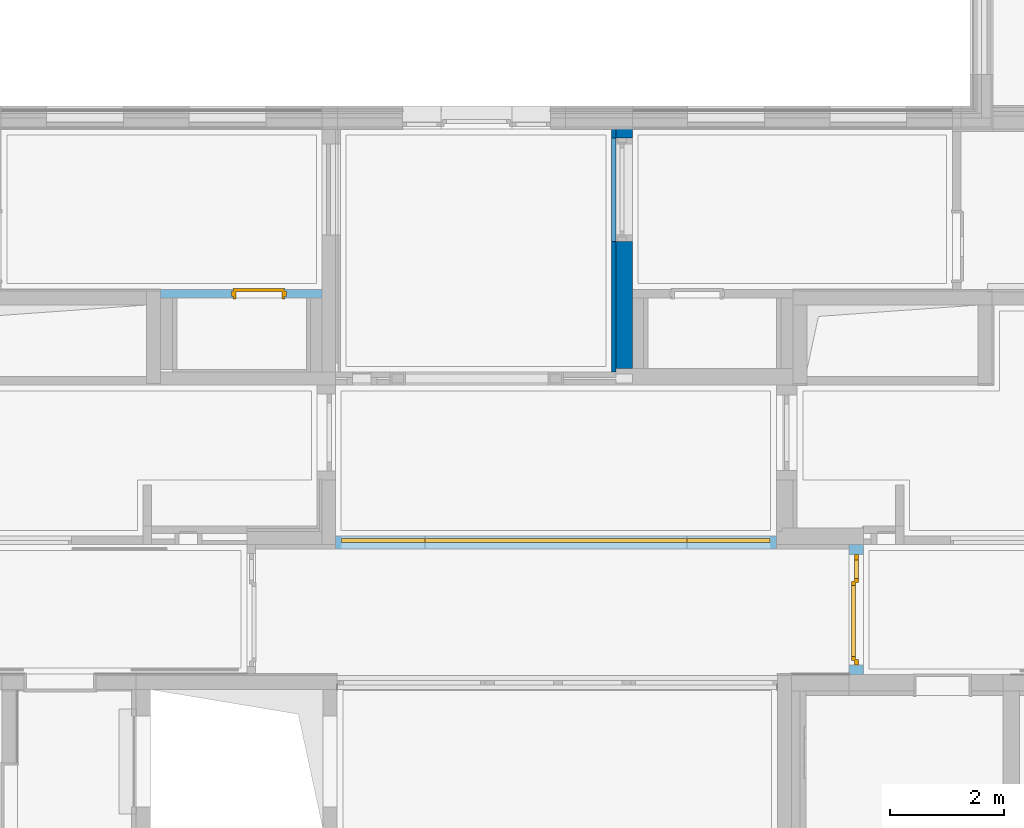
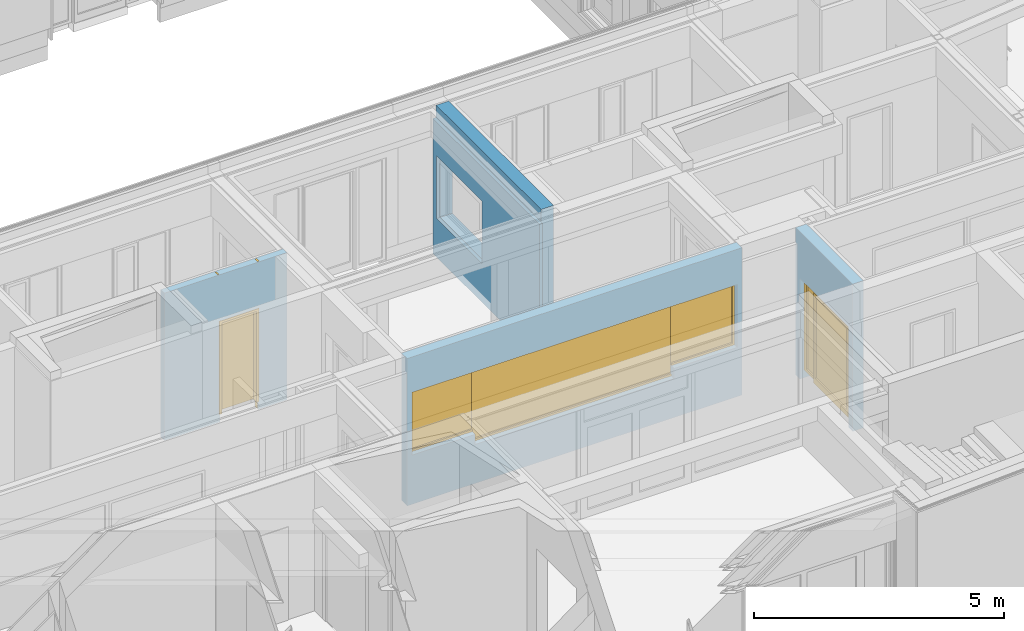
# One storey, part 96 of 207: 3 windows, 2 doors, 2 walls, 5 openings, plus 3 elements that do not belong to this part.
"""IFC4 building model written with IfcOpenShell, lengths in metres."""

from ifc_helpers import new_model, entity, si_unit, converted_unit, derived_unit, frame, frame_2d, origin, origin_with_axes, place, context, subcontext, project, spatial, polyline, rectangle, outline, extrude, closed_shell, open_shell, faceted_brep, surface_model, source, transform, mapped, material, type_object, element, fill, save


model = new_model("IFC4")

# Units and contexts
model_context = context("Model", 3, precision=1e-05, world=origin())
body_context = subcontext(model_context, "Body", "Model", "MODEL_VIEW")
ifc_project = project(units=[si_unit("LENGTHUNIT", "METRE"), si_unit("AREAUNIT", "SQUARE_METRE"), si_unit("VOLUMEUNIT", "CUBIC_METRE"), si_unit("MASSUNIT", "GRAM", prefix="KILO"), converted_unit("PLANEANGLEUNIT", "DEGREE", entity("IfcPlaneAngleMeasure", 0.0174532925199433), si_unit("PLANEANGLEUNIT", "RADIAN"), dimensions=[0, 0, 0, 0, 0, 0, 0]), derived_unit("THERMALTRANSMITTANCEUNIT", [(si_unit("POWERUNIT", "WATT"), 1), (si_unit("THERMODYNAMICTEMPERATUREUNIT", "KELVIN"), -1), (si_unit("LENGTHUNIT", "METRE"), -2)]), derived_unit("VOLUMETRICFLOWRATEUNIT", [(si_unit("LENGTHUNIT", "METRE"), 3), (converted_unit("TIMEUNIT", "hour", entity("IfcTimeMeasure", 3600.0), si_unit("TIMEUNIT", "SECOND"), dimensions=[0, 0, 1, 0, 0, 0, 0]), -1), (si_unit("LENGTHUNIT", "METRE"), -1)])], contexts=[model_context])

# Site, building, storey
site_placement = place(None, origin())
site = spatial("IfcSite", under=ifc_project, at=site_placement, Name="Psychiatrie Neubau Wunstorf", CompositionType="ELEMENT")
building_placement = place(site_placement, origin())
building = spatial("IfcBuilding", under=site, at=building_placement, Name="Neubau H2 Stationsgebäude", CompositionType="ELEMENT")
storey_placement = place(building_placement, frame((0.0, 0.0, -0.2)))
storey = spatial("IfcBuildingStorey", under=building, at=storey_placement, Name="H2 Ebene 0", CompositionType="ELEMENT", Elevation=-0.2)

# Wall, opening, door
ifc_material_1 = material(Name="WI-LB")
wall_1_placement = place(storey_placement, frame((50.2860000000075, 7.29999969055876, 0.0), z_axis=(0.0, 0.0, 1.0), x_axis=(-1.0, 0.0, 0.0)))
wall_1 = element("IfcWall", 1, at=wall_1_placement, inside=storey, material=ifc_material_1, context=body_context, shape_type="SweptSolid", body=[
    extrude(rectangle(XDim=2.836, YDim=0.15, at=frame_2d((1.418, 0.075), x_axis=(1.0, 0.0))), origin_with_axes(), (0.0, 0.0, 1.0), 3.6),
])
opening_1_placement = place(wall_1_placement, frame((1.5535, 0.15, 0.0), z_axis=(0.0, -1.0, 0.0), x_axis=(0.0, 0.0, 1.0)))
opening_1 = element("IfcOpeningElement", 2, at=opening_1_placement, cuts=wall_1, Name="Türöffnung", ObjectType="Opening", context=body_context, shape_type="SweptSolid", body=[
    extrude(outline(polyline([(2.46, 0.885), (2.46, 0.0), (0.0, 0.0), (0.0, 0.885), (2.46, 0.885)])), origin_with_axes(), (0.0, 0.0, 1.0), 0.15),
])
ifc_material_2 = material(Name="TI-1F-UZ-D-N")
door_type = type_object("IfcDoorType", Name="SMT", OperationType="SINGLE_SWING_RIGHT", ParameterTakesPrecedence=False, PredefinedType="DOOR")
shared_shape_1 = source(origin_with_axes(), body_context, "Body", "Brep", [
    faceted_brep([(0.925, 0.025, 0.0), (0.925, 0.125, 0.0), (0.885, 0.125, 0.0), (0.885, 0.025, 0.0), (0.925, 0.125, 3.6), (0.925, 0.025, 3.6), (0.885, 0.025, 3.6), (0.885, 0.125, 3.6)], [[[0, 1, 2, 3]], [[4, 5, 6, 7]], [[1, 0, 5, 4]], [[2, 1, 4, 7]], [[3, 2, 7, 6]], [[0, 3, 6, 5]]], orient=[[False], [False], [False], [False], [False], [False]]),
    faceted_brep([(0.0, 0.025, 0.0), (0.0, 0.125, 0.0), (-0.04, 0.125, 0.0), (-0.04, 0.025, 0.0), (0.0, 0.125, 3.6), (0.0, 0.025, 3.6), (-0.04, 0.025, 3.6), (-0.04, 0.125, 3.6)], [[[0, 1, 2, 3]], [[4, 5, 6, 7]], [[1, 0, 5, 4]], [[2, 1, 4, 7]], [[3, 2, 7, 6]], [[0, 3, 6, 5]]], orient=[[False], [False], [False], [False], [False], [False]]),
    faceted_brep([(0.885, 0.025, 2.46), (0.885, 0.125, 2.46), (0.0, 0.125, 2.46), (0.0, 0.025, 2.46), (0.885, 0.125, 2.5), (0.885, 0.025, 2.5), (0.0, 0.025, 2.5), (0.0, 0.125, 2.5)], [[[0, 1, 2, 3]], [[4, 5, 6, 7]], [[1, 0, 5, 4]], [[2, 1, 4, 7]], [[3, 2, 7, 6]], [[0, 3, 6, 5]]], orient=[[False], [False], [False], [False], [False], [False]]),
])
shared_shape_2 = source(origin_with_axes(), body_context, "Body", "Brep", [
    faceted_brep([(0.885, -0.015, 2.46), (0.885, -0.015, 0.2), (0.845, -0.015, 0.2), (0.845, -0.015, 2.46), (0.885, 0.165, 0.2), (0.885, 0.165, 2.46), (0.845, 0.165, 2.46), (0.845, 0.165, 0.2)], [[[0, 1, 2, 3]], [[4, 5, 6, 7]], [[1, 0, 5, 4]], [[2, 1, 4, 7]], [[3, 2, 7, 6]], [[0, 3, 6, 5]]], orient=[[False], [False], [False], [False], [False], [False]]),
    faceted_brep([(0.885, -0.015, 2.475), (0.9, -0.015, 2.475), (0.9, -0.015, 0.2), (0.885, -0.015, 0.2), (0.885, 0.0, 0.2), (0.9, 0.0, 0.2), (0.9, 0.0, 2.475), (0.885, 0.0, 2.475)], [[[0, 1, 2, 3]], [[4, 5, 6, 7]], [[3, 4, 7, 0]], [[2, 5, 4, 3]], [[1, 6, 5, 2]], [[0, 7, 6, 1]]], orient=[[False], [False], [False], [False], [False], [False]]),
    faceted_brep([(0.885, 0.15, 2.475), (0.9, 0.15, 2.475), (0.9, 0.15, 0.2), (0.885, 0.15, 0.2), (0.885, 0.165, 0.2), (0.9, 0.165, 0.2), (0.9, 0.165, 2.475), (0.885, 0.165, 2.475)], [[[0, 1, 2, 3]], [[4, 5, 6, 7]], [[3, 4, 7, 0]], [[2, 5, 4, 3]], [[1, 6, 5, 2]], [[0, 7, 6, 1]]], orient=[[False], [False], [False], [False], [False], [False]]),
    faceted_brep([(0.04, -0.015, 2.46), (0.04, -0.015, 0.2), (0.0, -0.015, 0.2), (0.0, -0.015, 2.46), (0.04, 0.165, 0.2), (0.04, 0.165, 2.46), (0.0, 0.165, 2.46), (0.0, 0.165, 0.2)], [[[0, 1, 2, 3]], [[4, 5, 6, 7]], [[1, 0, 5, 4]], [[2, 1, 4, 7]], [[3, 2, 7, 6]], [[0, 3, 6, 5]]], orient=[[False], [False], [False], [False], [False], [False]]),
    faceted_brep([(0.0, -0.015, 2.475), (0.0, -0.015, 0.2), (-0.015, -0.015, 0.2), (-0.015, -0.015, 2.475), (0.0, 0.0, 0.2), (0.0, 0.0, 2.475), (-0.015, 0.0, 2.475), (-0.015, 0.0, 0.2)], [[[0, 1, 2, 3]], [[4, 5, 6, 7]], [[1, 0, 5, 4]], [[2, 1, 4, 7]], [[3, 2, 7, 6]], [[0, 3, 6, 5]]], orient=[[False], [False], [False], [False], [False], [False]]),
    faceted_brep([(0.0, 0.15, 2.475), (0.0, 0.15, 0.2), (-0.015, 0.15, 0.2), (-0.015, 0.15, 2.475), (0.0, 0.165, 0.2), (0.0, 0.165, 2.475), (-0.015, 0.165, 2.475), (-0.015, 0.165, 0.2)], [[[0, 1, 2, 3]], [[4, 5, 6, 7]], [[1, 0, 5, 4]], [[2, 1, 4, 7]], [[3, 2, 7, 6]], [[0, 3, 6, 5]]], orient=[[False], [False], [False], [False], [False], [False]]),
    faceted_brep([(0.845, -0.015, 2.46), (0.845, -0.015, 2.42), (0.04, -0.015, 2.42), (0.04, -0.015, 2.46), (0.845, 0.165, 2.42), (0.845, 0.165, 2.46), (0.04, 0.165, 2.46), (0.04, 0.165, 2.42)], [[[0, 1, 2, 3]], [[4, 5, 6, 7]], [[1, 0, 5, 4]], [[2, 1, 4, 7]], [[3, 2, 7, 6]], [[0, 3, 6, 5]]], orient=[[False], [False], [False], [False], [False], [False]]),
    faceted_brep([(0.885, -0.015, 2.475), (0.885, -0.015, 2.46), (0.0, -0.015, 2.46), (0.0, -0.015, 2.475), (0.885, 0.0, 2.46), (0.885, 0.0, 2.475), (0.0, 0.0, 2.475), (0.0, 0.0, 2.46)], [[[0, 1, 2, 3]], [[4, 5, 6, 7]], [[1, 0, 5, 4]], [[2, 1, 4, 7]], [[3, 2, 7, 6]], [[0, 3, 6, 5]]], orient=[[False], [False], [False], [False], [False], [False]]),
    faceted_brep([(0.885, 0.15, 2.475), (0.885, 0.15, 2.46), (0.0, 0.15, 2.46), (0.0, 0.15, 2.475), (0.885, 0.165, 2.46), (0.885, 0.165, 2.475), (0.0, 0.165, 2.475), (0.0, 0.165, 2.46)], [[[0, 1, 2, 3]], [[4, 5, 6, 7]], [[1, 0, 5, 4]], [[2, 1, 4, 7]], [[3, 2, 7, 6]], [[0, 3, 6, 5]]], orient=[[False], [False], [False], [False], [False], [False]]),
    faceted_brep([(0.86, 0.116, 2.435), (0.86, 0.116, 0.2), (0.025, 0.116, 0.2), (0.025, 0.116, 2.435), (0.86, 0.166, 0.2), (0.86, 0.166, 2.435), (0.025, 0.166, 2.435), (0.025, 0.166, 0.2)], [[[0, 1, 2, 3]], [[4, 5, 6, 7]], [[1, 0, 5, 4]], [[2, 1, 4, 7]], [[3, 2, 7, 6]], [[0, 3, 6, 5]]], orient=[[False], [False], [False], [False], [False], [False]]),
])
door_1_placement = place(opening_1_placement, frame((0.0, 0.0, 0.0), z_axis=(1.0, 0.0, 0.0), x_axis=(0.0, 1.0, 0.0)))
door_1 = element("IfcDoor", 3, at=door_1_placement, inside=storey, type_object=door_type, material=ifc_material_2, Name="SMT", OverallHeight=2.46, OverallWidth=0.885, context=body_context, shape_type="MappedRepresentation", body=[
    mapped(shared_shape_1, transform((0.0, 0.0, 0.0), x_axis=(1.0, 0.0, 0.0), y_axis=(0.0, 1.0, 0.0), z_axis=(0.0, 0.0, 1.0), scale=1.0)),
    mapped(shared_shape_2, transform((0.0, 0.0, 0.0), x_axis=(1.0, 0.0, 0.0), y_axis=(0.0, 1.0, 0.0), z_axis=(0.0, 0.0, 1.0), scale=1.0)),
])
fill(opening_1, door_1)

ifc_material_3 = material(Name="WI-LW 60")
wall_2_placement = place(storey_placement, frame((59.5393138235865, 2.81760836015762, 0.0), z_axis=(0.0, 0.0, 1.0), x_axis=(0.0, -1.0, 0.0)))
wall_2 = element("IfcWall", 4, at=wall_2_placement, inside=storey, material=ifc_material_3, context=body_context, shape_type="SweptSolid", body=[
    extrude(outline(polyline([(-2.28160591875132, 0.0), (0.0, 0.0), (0.0, 0.25), (-2.28162844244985, 0.25), (-2.28160591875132, 0.0)])), frame((2.28160591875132, 0.0, 0.0), z_axis=(0.0, 0.0, 1.0), x_axis=(1.0, 0.0, 0.0)), (0.0, 0.0, 1.0), 3.6),
])
opening_2_placement = place(wall_2_placement, frame((2.11161344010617, 0.25, 0.0), z_axis=(0.0, -1.0, 0.0), x_axis=(0.0, 0.0, 1.0)))
opening_2 = element("IfcOpeningElement", 5, at=opening_2_placement, cuts=wall_2, Name="Türöffnung", ObjectType="Opening", context=body_context, shape_type="SweptSolid", body=[
    extrude(outline(polyline([(2.46, 1.9416311), (2.46, 0.0), (0.0, 0.0), (0.0, 1.9416311), (2.46, 1.9416311)])), origin_with_axes(), (0.0, 0.0, 1.0), 0.25),
])
ifc_material_4 = material(Name="TI-1F-SG-D-M")
shared_shape_3 = source(origin_with_axes(), body_context, "Body", "Brep", [
    faceted_brep([(2.04913110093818, -0.0449999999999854, 0.0), (2.04913110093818, 0.115000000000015, 0.0), (1.96913110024, 0.115000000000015, 0.0), (1.96913110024, -0.0449999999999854, 0.0), (2.04913110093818, 0.115000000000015, 3.6), (2.04913110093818, -0.0449999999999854, 3.6), (1.96913110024, -0.0449999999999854, 3.6), (1.96913110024, 0.115000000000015, 3.6)], [[[0, 1, 2, 3]], [[4, 5, 6, 7]], [[1, 0, 5, 4]], [[2, 1, 4, 7]], [[3, 2, 7, 6]], [[0, 3, 6, 5]]], orient=[[False], [False], [False], [False], [False], [False]]),
    faceted_brep([(-0.0275000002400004, -0.0449999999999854, 0.0), (-0.0275000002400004, 0.115000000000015, 0.0), (-0.107500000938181, 0.115000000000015, 0.0), (-0.107500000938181, -0.0449999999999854, 0.0), (-0.0275000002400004, 0.115000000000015, 3.6), (-0.0275000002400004, -0.0449999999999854, 3.6), (-0.107500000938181, -0.0449999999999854, 3.6), (-0.107500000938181, 0.115000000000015, 3.6)], [[[0, 1, 2, 3]], [[4, 5, 6, 7]], [[1, 0, 5, 4]], [[2, 1, 4, 7]], [[3, 2, 7, 6]], [[0, 3, 6, 5]]], orient=[[False], [False], [False], [False], [False], [False]]),
    faceted_brep([(1.96913110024, -0.0449999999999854, 2.4875), (1.96913110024, 0.115000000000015, 2.4875), (-0.0275000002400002, 0.115000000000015, 2.4875), (-0.0275000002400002, -0.0449999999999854, 2.4875), (1.96913110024, 0.115000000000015, 2.5675), (1.96913110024, -0.0449999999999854, 2.5675), (-0.0275000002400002, -0.0449999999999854, 2.5675), (-0.0275000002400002, 0.115000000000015, 2.5675)], [[[0, 1, 2, 3]], [[4, 5, 6, 7]], [[1, 0, 5, 4]], [[2, 1, 4, 7]], [[3, 2, 7, 6]], [[0, 3, 6, 5]]], orient=[[False], [False], [False], [False], [False], [False]]),
])
shared_shape_4 = source(origin_with_axes(), body_context, "Body", "SurfaceModel", [
    surface_model("IfcShellBasedSurfaceModel", [(0.0, 0.0, 2.46), (0.100000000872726, 0.0, 2.46), (0.100000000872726, 0.0, 0.2), (0.0, 0.0, 0.2), (0.0, 0.0700000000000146, 0.2), (0.100000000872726, 0.0700000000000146, 0.2), (0.100000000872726, 0.0700000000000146, 2.46), (0.0, 0.0700000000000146, 2.46)], [closed_shell([[[0, 1, 2, 3]], [[4, 5, 6, 7]], [[3, 4, 7, 0]], [[2, 5, 4, 3]], [[1, 6, 5, 2]], [[0, 7, 6, 1]]], orient=[[False], [False], [False], [False], [False], [False]])]),
    surface_model("IfcShellBasedSurfaceModel", [(1.84163109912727, 0.0, 2.46), (1.9416311, 0.0, 2.46), (1.9416311, 0.0, 0.2), (1.84163109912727, 0.0, 0.2), (1.84163109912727, 0.0700000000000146, 0.2), (1.9416311, 0.0700000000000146, 0.2), (1.9416311, 0.0700000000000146, 2.46), (1.84163109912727, 0.0700000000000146, 2.46)], [closed_shell([[[0, 1, 2, 3]], [[4, 5, 6, 7]], [[3, 4, 7, 0]], [[2, 5, 4, 3]], [[1, 6, 5, 2]], [[0, 7, 6, 1]]], orient=[[False], [False], [False], [False], [False], [False]])]),
    surface_model("IfcShellBasedSurfaceModel", [(0.100000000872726, 0.0, 2.46), (1.84163109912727, 0.0, 2.46), (1.84163109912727, 0.0, 2.36), (0.100000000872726, 0.0, 2.36), (0.100000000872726, 0.0700000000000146, 2.36), (1.84163109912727, 0.0700000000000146, 2.36), (1.84163109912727, 0.0700000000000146, 2.46), (0.100000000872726, 0.0700000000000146, 2.46)], [closed_shell([[[0, 1, 2, 3]], [[4, 5, 6, 7]], [[3, 4, 7, 0]], [[2, 5, 4, 3]], [[1, 6, 5, 2]], [[0, 7, 6, 1]]], orient=[[False], [False], [False], [False], [False], [False]])]),
    surface_model("IfcShellBasedSurfaceModel", [(1.45000001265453, 0.0, 2.36), (1.52000001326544, 0.0, 2.36), (1.52000001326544, 0.0, 0.2), (1.45000001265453, 0.0, 0.2), (1.45000001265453, 0.0700000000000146, 0.2), (1.52000001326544, 0.0700000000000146, 0.2), (1.52000001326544, 0.0700000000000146, 2.36), (1.45000001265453, 0.0700000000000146, 2.36)], [closed_shell([[[0, 1, 2, 3]], [[4, 5, 6, 7]], [[3, 4, 7, 0]], [[2, 5, 4, 3]], [[1, 6, 5, 2]], [[0, 7, 6, 1]]], orient=[[False], [False], [False], [False], [False], [False]])]),
    surface_model("IfcShellBasedSurfaceModel", [(0.0800000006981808, 0.0500000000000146, 2.38), (0.150000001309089, 0.0500000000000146, 2.38), (0.150000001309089, 0.0500000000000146, 0.18), (0.0800000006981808, 0.0500000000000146, 0.18), (0.0800000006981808, 0.120000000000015, 0.18), (0.150000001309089, 0.120000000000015, 0.18), (0.150000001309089, 0.120000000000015, 2.38), (0.0800000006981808, 0.120000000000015, 2.38)], [closed_shell([[[0, 1, 2, 3]], [[4, 5, 6, 7]], [[3, 4, 7, 0]], [[2, 5, 4, 3]], [[1, 6, 5, 2]], [[0, 7, 6, 1]]], orient=[[False], [False], [False], [False], [False], [False]])]),
    surface_model("IfcShellBasedSurfaceModel", [(1.40000001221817, 0.0500000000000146, 2.38), (1.47000001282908, 0.0500000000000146, 2.38), (1.47000001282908, 0.0500000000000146, 0.18), (1.40000001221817, 0.0500000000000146, 0.18), (1.40000001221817, 0.120000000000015, 0.18), (1.47000001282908, 0.120000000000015, 0.18), (1.47000001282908, 0.120000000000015, 2.38), (1.40000001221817, 0.120000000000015, 2.38)], [closed_shell([[[0, 1, 2, 3]], [[4, 5, 6, 7]], [[3, 4, 7, 0]], [[2, 5, 4, 3]], [[1, 6, 5, 2]], [[0, 7, 6, 1]]], orient=[[False], [False], [False], [False], [False], [False]])]),
    surface_model("IfcShellBasedSurfaceModel", [(0.150000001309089, 0.0500000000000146, 0.33), (1.40000001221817, 0.0500000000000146, 0.33), (1.40000001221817, 0.0500000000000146, 0.18), (0.150000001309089, 0.0500000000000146, 0.18), (0.150000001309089, 0.120000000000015, 0.18), (1.40000001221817, 0.120000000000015, 0.18), (1.40000001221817, 0.120000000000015, 0.33), (0.150000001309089, 0.120000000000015, 0.33)], [closed_shell([[[0, 1, 2, 3]], [[4, 5, 6, 7]], [[3, 4, 7, 0]], [[2, 5, 4, 3]], [[1, 6, 5, 2]], [[0, 7, 6, 1]]], orient=[[False], [False], [False], [False], [False], [False]])]),
    surface_model("IfcShellBasedSurfaceModel", [(0.150000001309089, 0.0500000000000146, 2.38), (1.40000001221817, 0.0500000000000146, 2.38), (1.40000001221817, 0.0500000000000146, 2.31), (0.150000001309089, 0.0500000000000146, 2.31), (0.150000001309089, 0.120000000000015, 2.31), (1.40000001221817, 0.120000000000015, 2.31), (1.40000001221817, 0.120000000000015, 2.38), (0.150000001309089, 0.120000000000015, 2.38)], [closed_shell([[[0, 1, 2, 3]], [[4, 5, 6, 7]], [[3, 4, 7, 0]], [[2, 5, 4, 3]], [[1, 6, 5, 2]], [[0, 7, 6, 1]]], orient=[[False], [False], [False], [False], [False], [False]])]),
    surface_model("IfcShellBasedSurfaceModel", [(1.52000001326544, 0.0, 0.27), (1.84163109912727, 0.0, 0.27), (1.84163109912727, 0.0, 0.2), (1.52000001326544, 0.0, 0.2), (1.52000001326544, 0.0700000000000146, 0.2), (1.84163109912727, 0.0700000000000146, 0.2), (1.84163109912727, 0.0700000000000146, 0.27), (1.52000001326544, 0.0700000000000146, 0.27)], [closed_shell([[[0, 1, 2, 3]], [[4, 5, 6, 7]], [[3, 4, 7, 0]], [[2, 5, 4, 3]], [[1, 6, 5, 2]], [[0, 7, 6, 1]]], orient=[[False], [False], [False], [False], [False], [False]])]),
    surface_model("IfcShellBasedSurfaceModel", [(0.150000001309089, 0.0850000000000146, 0.33), (0.150000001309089, 0.0850000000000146, 2.31), (1.40000001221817, 0.0850000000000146, 2.31), (1.40000001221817, 0.0850000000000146, 0.33)], [open_shell([[[0, 1, 2, 3]]], orient=[[False]])]),
    surface_model("IfcShellBasedSurfaceModel", [(1.52000001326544, 0.0350000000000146, 0.27), (1.52000001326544, 0.0350000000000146, 2.36), (1.84163109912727, 0.0350000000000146, 2.36), (1.84163109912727, 0.0350000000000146, 0.27)], [open_shell([[[0, 1, 2, 3]]], orient=[[False]])]),
])
door_2_placement = place(opening_2_placement, frame((0.0, 0.0, 0.09), z_axis=(1.0, 0.0, 0.0), x_axis=(0.0, 1.0, 0.0)))
door_2 = element("IfcDoor", 6, at=door_2_placement, inside=storey, material=ifc_material_4, Name="SMT", OperationType="USERDEFINED", OverallHeight=2.46, OverallWidth=1.94163, PredefinedType="DOOR", context=body_context, shape_type="MappedRepresentation", body=[
    mapped(shared_shape_3, transform((0.0, 0.0, 0.0), x_axis=(1.0, 0.0, 0.0), y_axis=(0.0, 1.0, 0.0), z_axis=(0.0, 0.0, 1.0), scale=1.0)),
    mapped(shared_shape_4, transform((0.0, 0.0, 0.0), x_axis=(1.0, 0.0, 0.0), y_axis=(0.0, 1.0, 0.0), z_axis=(0.0, 0.0, 1.0), scale=1.0)),
])
fill(opening_2, door_2)

# Walls
ifc_material_5 = material(Name="WI-VS")
wall_3_placement = place(storey_placement, frame((55.3675000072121, 5.84949969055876, 0.0)))
element("IfcWall", 7, at=wall_3_placement, inside=storey, material=ifc_material_5, context=body_context, shape_type="Brep", body=[
    faceted_brep([(0.0, 4.1095, 2.475), (0.0, 2.2945, 2.475), (0.075, 2.2945, 2.475), (0.075, 4.1095, 2.475), (0.075, 4.1095, 0.95), (0.0, 4.1095, 0.95), (0.0, 2.2945, 0.95), (0.075, 2.2945, 0.95), (0.075, 4.2645, 0.0), (0.075, 0.0, 0.0), (0.075, 0.0, 3.3), (0.075, 4.2645, 3.3), (0.0, 0.0, 0.0), (0.0, 0.0, 3.3), (0.0, 4.2645, 0.0), (0.0, 4.2645, 3.3)], [[[0, 1, 2, 3]], [[3, 4, 5, 0]], [[1, 6, 7, 2]], [[4, 7, 6, 5]], [[8, 9, 10, 11], [7, 4, 3, 2]], [[9, 12, 13, 10]], [[12, 14, 15, 13], [1, 0, 5, 6]], [[14, 8, 11, 15]], [[15, 11, 10, 13]], [[8, 14, 12, 9]]], orient=[[False], [False], [False], [False], [False, False], [False], [False, False], [False], [False], [False]]),
])
ifc_material_6 = material(Name="WI-HW 60")
wall_4_placement = place(storey_placement, frame((55.4425000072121, 5.90749969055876, 0.0)))
element("IfcWall", 8, at=wall_4_placement, inside=storey, material=ifc_material_6, context=body_context, shape_type="Brep", body=[
    faceted_brep([(0.0, 4.0515, 2.475), (0.0, 2.2365, 2.475), (0.29, 2.2365, 2.475), (0.29, 4.0515, 2.475), (0.29, 4.0515, 0.95), (0.0, 4.0515, 0.95), (0.0, 2.2365, 0.95), (0.29, 2.2365, 0.95), (0.29, 4.2065, 0.0), (0.29, 0.0, 0.0), (0.29, 0.0, 3.6), (0.29, 4.2065, 3.6), (0.0, 0.0, 0.0), (0.0, 0.0, 3.6), (0.0, 4.2065, 0.0), (0.0, 4.2065, 3.6)], [[[0, 1, 2, 3]], [[3, 4, 5, 0]], [[1, 6, 7, 2]], [[4, 7, 6, 5]], [[8, 9, 10, 11], [7, 4, 3, 2]], [[9, 12, 13, 10]], [[12, 14, 15, 13], [1, 0, 5, 6]], [[14, 8, 11, 15]], [[15, 11, 10, 13]], [[8, 14, 12, 9]]], orient=[[False], [False], [False], [False], [False, False], [False], [False, False], [False], [False], [False]]),
])

# Wall, openings, windows
ifc_material_7 = material(Name="WI-LB")
wall_5_placement = place(storey_placement, frame((58.2601451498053, 2.96750627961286, 0.0), z_axis=(0.0, 0.0, 1.0), x_axis=(-1.0, 0.0, 0.0)))
wall_5 = element("IfcWall", 9, at=wall_5_placement, inside=storey, material=ifc_material_7, context=body_context, shape_type="SweptSolid", body=[
    extrude(rectangle(XDim=7.74213872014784, YDim=0.225, at=frame_2d((3.87106936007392, 0.1125), x_axis=(1.0, 0.0))), origin_with_axes(), (0.0, 0.0, 1.0), 3.6),
])
opening_3_placement = place(wall_5_placement, frame((6.16966852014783, 0.225, 0.950000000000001), z_axis=(0.0, -1.0, 0.0), x_axis=(0.0, 0.0, 1.0)))
opening_3 = element("IfcOpeningElement", 10, at=opening_3_placement, cuts=wall_5, Name="Fensteröffnung", ObjectType="Opening", context=body_context, shape_type="SweptSolid", body=[
    extrude(outline(polyline([(1.79, 4.5972045), (1.79, 0.0), (0.0, 0.0), (0.0, 4.5972045), (1.79, 4.5972045)])), origin_with_axes(), (0.0, 0.0, 1.0), 0.225),
])
opening_4_placement = place(wall_5_placement, frame((7.63419062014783, 0.225, 1.2), z_axis=(0.0, -1.0, 0.0), x_axis=(0.0, 0.0, 1.0)))
opening_4 = element("IfcOpeningElement", 11, at=opening_4_placement, cuts=wall_5, Name="Fensteröffnung", ObjectType="Opening", context=body_context, shape_type="SweptSolid", body=[
    extrude(outline(polyline([(1.54, 1.4645221), (1.54, 0.0), (0.0, 0.0), (0.0, 1.4645221), (1.54, 1.4645221)])), origin_with_axes(), (0.0, 0.0, 1.0), 0.225),
])
opening_5_placement = place(wall_5_placement, frame((1.5724702, 0.225, 1.2), z_axis=(0.0, -1.0, 0.0), x_axis=(0.0, 0.0, 1.0)))
opening_5 = element("IfcOpeningElement", 12, at=opening_5_placement, cuts=wall_5, Name="Fensteröffnung", ObjectType="Opening", context=body_context, shape_type="SweptSolid", body=[
    extrude(outline(polyline([(1.54, 1.4647089), (1.54, 0.0), (0.0, 0.0), (0.0, 1.4647089), (1.54, 1.4647089)])), origin_with_axes(), (0.0, 0.0, 1.0), 0.225),
])
shared_shape_5 = source(origin_with_axes(), body_context, "Body", "SurfaceModel", [
    surface_model("IfcShellBasedSurfaceModel", [(4.5972045, -0.000499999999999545, 0.05), (4.5972045, -0.000499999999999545, 0.0), (0.0, -0.00049999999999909, 0.0), (0.0, -0.00049999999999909, 0.05), (4.5972045, 0.0744999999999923, 0.0), (4.5972045, 0.0744999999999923, 0.05), (0.0, 0.0744999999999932, 0.05), (0.0, 0.0744999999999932, 0.0)], [closed_shell([[[0, 1, 2, 3]], [[4, 5, 6, 7]], [[1, 0, 5, 4]], [[2, 1, 4, 7]], [[3, 2, 7, 6]], [[0, 3, 6, 5]]], orient=[[False], [False], [False], [False], [False], [False]])]),
    surface_model("IfcShellBasedSurfaceModel", [(4.5972045, -0.0005, 1.79), (4.5972045, -0.0005, 1.74), (0.0, -0.000499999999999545, 1.74), (0.0, -0.000499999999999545, 1.79), (4.5972045, 0.0744999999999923, 1.74), (4.5972045, 0.0744999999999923, 1.79), (0.0, 0.0744999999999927, 1.79), (0.0, 0.0744999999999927, 1.74)], [closed_shell([[[0, 1, 2, 3]], [[4, 5, 6, 7]], [[1, 0, 5, 4]], [[2, 1, 4, 7]], [[3, 2, 7, 6]], [[0, 3, 6, 5]]], orient=[[False], [False], [False], [False], [False], [False]])]),
    surface_model("IfcShellBasedSurfaceModel", [(4.5972045, 0.0369999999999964, 0.05), (0.0, 0.0369999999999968, 0.05), (0.0, 0.0369999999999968, 1.74), (4.5972045, 0.0369999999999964, 1.74)], [open_shell([[[0, 1, 2, 3]]], orient=[[False]])]),
])
window_1_placement = place(opening_3_placement, frame((0.0, 0.0, 0.113), z_axis=(1.0, 0.0, 0.0), x_axis=(0.0, 1.0, 0.0)))
window_1 = element("IfcWindow", 13, at=window_1_placement, inside=storey, Name="Fenster", OverallHeight=1.79, OverallWidth=4.5972, PartitioningType="USERDEFINED", PredefinedType="WINDOW", context=body_context, shape_type="MappedRepresentation", body=[
    mapped(shared_shape_5, transform((0.0, 0.0, 0.0), x_axis=(1.0, 0.0, 0.0), y_axis=(0.0, 1.0, 0.0), z_axis=(0.0, 0.0, 1.0), scale=1.0)),
])
fill(opening_3, window_1)
shared_shape_6 = source(origin_with_axes(), body_context, "Body", "SurfaceModel", [
    surface_model("IfcShellBasedSurfaceModel", [(0.0500000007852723, -0.000500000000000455, 1.54), (0.0500000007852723, -0.0005, 0.0), (0.0, -0.0005, 0.0), (0.0, -0.000500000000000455, 1.54), (0.0500000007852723, 0.0744999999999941, 0.0), (0.0500000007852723, 0.0744999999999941, 1.54), (0.0, 0.0744999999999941, 1.54), (0.0, 0.0744999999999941, 0.0)], [closed_shell([[[0, 1, 2, 3]], [[4, 5, 6, 7]], [[1, 0, 5, 4]], [[2, 1, 4, 7]], [[3, 2, 7, 6]], [[0, 3, 6, 5]]], orient=[[False], [False], [False], [False], [False], [False]])]),
    surface_model("IfcShellBasedSurfaceModel", [(1.4645221, -0.000500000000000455, 0.05), (1.4645221, -0.000500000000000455, 0.0), (0.0500000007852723, -0.0005, 0.0), (0.0500000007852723, -0.0005, 0.05), (1.4645221, 0.0744999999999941, 0.0), (1.4645221, 0.0744999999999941, 0.05), (0.0500000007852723, 0.0744999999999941, 0.05), (0.0500000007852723, 0.0744999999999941, 0.0)], [closed_shell([[[0, 1, 2, 3]], [[4, 5, 6, 7]], [[1, 0, 5, 4]], [[2, 1, 4, 7]], [[3, 2, 7, 6]], [[0, 3, 6, 5]]], orient=[[False], [False], [False], [False], [False], [False]])]),
    surface_model("IfcShellBasedSurfaceModel", [(1.4645221, -0.000500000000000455, 1.54), (1.4645221, -0.000500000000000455, 1.49), (0.0500000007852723, -0.000500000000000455, 1.49), (0.0500000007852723, -0.000500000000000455, 1.54), (1.4645221, 0.0744999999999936, 1.49), (1.4645221, 0.0744999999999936, 1.54), (0.0500000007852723, 0.0744999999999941, 1.54), (0.0500000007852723, 0.0744999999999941, 1.49)], [closed_shell([[[0, 1, 2, 3]], [[4, 5, 6, 7]], [[1, 0, 5, 4]], [[2, 1, 4, 7]], [[3, 2, 7, 6]], [[0, 3, 6, 5]]], orient=[[False], [False], [False], [False], [False], [False]])]),
    surface_model("IfcShellBasedSurfaceModel", [(1.4645221, 0.0369999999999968, 0.05), (0.0500000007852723, 0.0369999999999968, 0.05), (0.0500000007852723, 0.0369999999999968, 1.49), (1.4645221, 0.0369999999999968, 1.49)], [open_shell([[[0, 1, 2, 3]]], orient=[[False]])]),
])
window_2_placement = place(opening_4_placement, frame((0.0, 0.0, 0.113), z_axis=(1.0, 0.0, 0.0), x_axis=(0.0, 1.0, 0.0)))
window_2 = element("IfcWindow", 14, at=window_2_placement, inside=storey, Name="Fenster", OverallHeight=1.54, OverallWidth=1.46452, PartitioningType="USERDEFINED", PredefinedType="WINDOW", context=body_context, shape_type="MappedRepresentation", body=[
    mapped(shared_shape_6, transform((0.0, 0.0, 0.0), x_axis=(1.0, 0.0, 0.0), y_axis=(0.0, 1.0, 0.0), z_axis=(0.0, 0.0, 1.0), scale=1.0)),
])
fill(opening_4, window_2)
shared_shape_7 = source(origin_with_axes(), body_context, "Body", "SurfaceModel", [
    surface_model("IfcShellBasedSurfaceModel", [(1.4647089, -0.0005, 1.54), (1.4647089, -0.000499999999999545, 0.0), (1.41470890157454, -0.000499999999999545, 0.0), (1.41470890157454, -0.0005, 1.54), (1.4647089, 0.0744999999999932, 0.0), (1.4647089, 0.0744999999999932, 1.54), (1.41470890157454, 0.0744999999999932, 1.54), (1.41470890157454, 0.0744999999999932, 0.0)], [closed_shell([[[0, 1, 2, 3]], [[4, 5, 6, 7]], [[1, 0, 5, 4]], [[2, 1, 4, 7]], [[3, 2, 7, 6]], [[0, 3, 6, 5]]], orient=[[False], [False], [False], [False], [False], [False]])]),
    surface_model("IfcShellBasedSurfaceModel", [(1.41470890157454, -0.000499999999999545, 0.05), (1.41470890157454, -0.000499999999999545, 0.0), (0.0, -0.000499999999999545, 0.0), (0.0, -0.000499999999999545, 0.05), (1.41470890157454, 0.0744999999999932, 0.0), (1.41470890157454, 0.0744999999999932, 0.05), (0.0, 0.0744999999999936, 0.05), (0.0, 0.0744999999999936, 0.0)], [closed_shell([[[0, 1, 2, 3]], [[4, 5, 6, 7]], [[1, 0, 5, 4]], [[2, 1, 4, 7]], [[3, 2, 7, 6]], [[0, 3, 6, 5]]], orient=[[False], [False], [False], [False], [False], [False]])]),
    surface_model("IfcShellBasedSurfaceModel", [(1.41470890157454, -0.0005, 1.54), (1.41470890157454, -0.0005, 1.49), (0.0, -0.000499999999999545, 1.49), (0.0, -0.000499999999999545, 1.54), (1.41470890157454, 0.0744999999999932, 1.49), (1.41470890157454, 0.0744999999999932, 1.54), (0.0, 0.0744999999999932, 1.54), (0.0, 0.0744999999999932, 1.49)], [closed_shell([[[0, 1, 2, 3]], [[4, 5, 6, 7]], [[1, 0, 5, 4]], [[2, 1, 4, 7]], [[3, 2, 7, 6]], [[0, 3, 6, 5]]], orient=[[False], [False], [False], [False], [False], [False]])]),
    surface_model("IfcShellBasedSurfaceModel", [(1.41470890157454, 0.0369999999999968, 0.05), (0.0, 0.0369999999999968, 0.05), (0.0, 0.0369999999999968, 1.49), (1.41470890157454, 0.0369999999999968, 1.49)], [open_shell([[[0, 1, 2, 3]]], orient=[[False]])]),
])
window_3_placement = place(opening_5_placement, frame((0.0, 0.0, 0.113), z_axis=(1.0, 0.0, 0.0), x_axis=(0.0, 1.0, 0.0)))
window_3 = element("IfcWindow", 15, at=window_3_placement, inside=storey, Name="Fenster", OverallHeight=1.54, OverallWidth=1.46471, PartitioningType="USERDEFINED", PredefinedType="WINDOW", context=body_context, shape_type="MappedRepresentation", body=[
    mapped(shared_shape_7, transform((0.0, 0.0, 0.0), x_axis=(1.0, 0.0, 0.0), y_axis=(0.0, 1.0, 0.0), z_axis=(0.0, 0.0, 1.0), scale=1.0)),
])
fill(opening_5, window_3)

save(model, "model.ifc")
